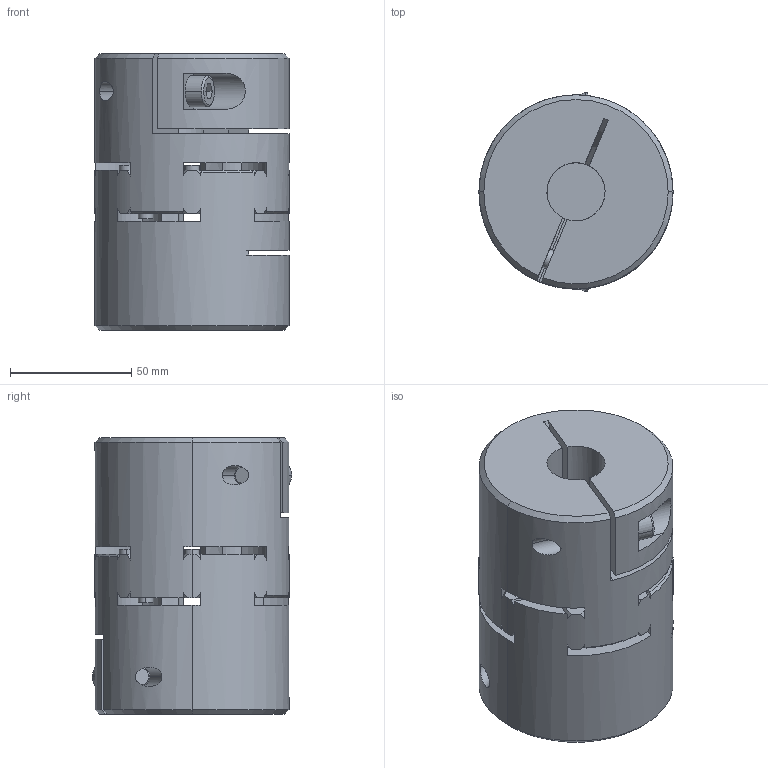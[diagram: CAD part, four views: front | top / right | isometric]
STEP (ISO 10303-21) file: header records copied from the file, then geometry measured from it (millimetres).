
FILE_DESCRIPTION((''),'2;1');
FILE_NAME('EKC-110','2026-03-30T11:09:11',('Administrator'),(''),'CREO PARAMETRIC BY PTC INC, 2020414','CREO PARAMETRIC BY PTC INC, 2020414','');
FILE_SCHEMA(('AUTOMOTIVE_DESIGN { 1 0 10303 214 1 1 1 1 }'));
Length unit declared in the file: millimetre
Products named in the file (1): EKC-110
Bounding box: 80 x 82.26 x 114.1 mm (x, y, z)
Volume: 469120.1 mm3; surface area: 82033.2 mm2
Topology: 1 solids, 1 shells, 267 faces, 822 edges, 549 vertices
Faces by surface type: cylinder 117, plane 78, cone 64, torus 8
Entity records: 10079 total; most frequent: CARTESIAN_POINT 2394, ORIENTED_EDGE 1632, DIRECTION 1602, EDGE_CURVE 816, AXIS2_PLACEMENT_3D 659, VERTEX_POINT 545, CIRCLE 391, EDGE_LOOP 297
